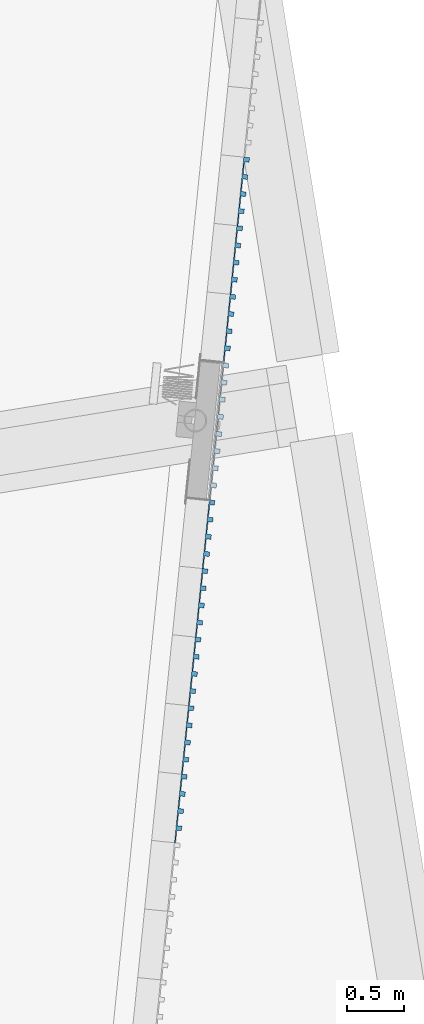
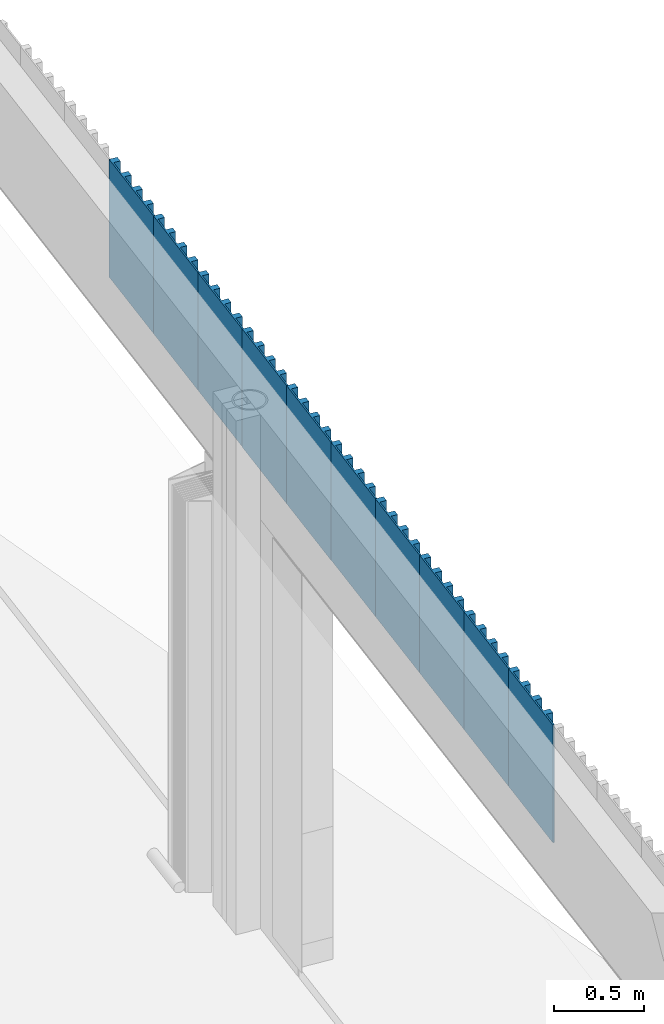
# One storey, part 16 of 23: 10 plates, 1 element without a shape of its own.
"""IFC2X3 building model written with IfcOpenShell, lengths in millimetres."""

from ifc_helpers import new_model, entity, si_unit, converted_unit, derived_unit, direction, frame, origin, origin_with_axes, place, context, subcontext, project, spatial, faceted_brep, material, type_object, element, aggregate, save


model = new_model("IFC2X3")

# Units and contexts
plan_context = context("Plan", 3, precision=1e-05, world=origin_with_axes())
model_context = context("Model", 3, precision=0.01, world=origin(), true_north=direction((6.12323399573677e-17, 1.0)))
body_context = subcontext(model_context, "Body", "Model", "MODEL_VIEW")
ifc_project = project(units=[converted_unit("PLANEANGLEUNIT", "DEGREE", entity("IfcPositiveLengthMeasure", 0.0174532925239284), si_unit("PLANEANGLEUNIT", "RADIAN"), dimensions=[0, 0, 0, 0, 0, 0, 0]), si_unit("AREAUNIT", "SQUARE_METRE"), si_unit("LENGTHUNIT", "METRE", prefix="MILLI"), si_unit("MASSUNIT", "GRAM", prefix="KILO"), si_unit("POWERUNIT", "WATT"), si_unit("PRESSUREUNIT", "PASCAL", prefix="KILO"), si_unit("FORCEUNIT", "NEWTON", prefix="KILO"), si_unit("ELECTRICVOLTAGEUNIT", "VOLT"), si_unit("ELECTRICCURRENTUNIT", "AMPERE"), si_unit("THERMODYNAMICTEMPERATUREUNIT", "DEGREE_CELSIUS"), si_unit("TIMEUNIT", "SECOND"), si_unit("VOLUMEUNIT", "CUBIC_METRE"), derived_unit("LINEARVELOCITYUNIT", [(si_unit("LENGTHUNIT", "METRE"), 1), (si_unit("TIMEUNIT", "SECOND"), -1)]), derived_unit("VOLUMETRICFLOWRATEUNIT", [(si_unit("VOLUMEUNIT", "CUBIC_METRE"), 1), (si_unit("TIMEUNIT", "SECOND"), -1)]), derived_unit("THERMALTRANSMITTANCEUNIT", [(si_unit("POWERUNIT", "WATT"), 1), (si_unit("THERMODYNAMICTEMPERATUREUNIT", "KELVIN"), -1), (si_unit("AREAUNIT", "SQUARE_METRE"), -1)]), derived_unit("SOUNDPRESSUREUNIT", [(si_unit("PRESSUREUNIT", "PASCAL"), 1)])], contexts=[model_context, plan_context])

# Site, building, storey
site_placement = place(None, frame((-0.00071070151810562, 0.00438415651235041, 0.0), z_axis=(0.0, 0.0, 1.0), x_axis=(-0.160236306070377, 0.987078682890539, 0.0)))
site = spatial("IfcSite", under=ifc_project, at=site_placement, Name="Default", CompositionType="ELEMENT")
building_placement = place(site_placement, origin_with_axes())
building = spatial("IfcBuilding", under=site, at=building_placement, Name="TOO", CompositionType="ELEMENT")
storey_placement = place(building_placement, frame((0.0, 0.0, 58999.9999999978), z_axis=(0.0, 0.0, 1.0), x_axis=(1.0, 0.0, 0.0)))
storey = spatial("IfcBuildingStorey", under=building, at=storey_placement, Name="Nivå F", CompositionType="ELEMENT", Elevation=58999.9999999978)

# Curtain wall, plates
curtain_wall_type = type_object("IfcCurtainWallType", Name="Curtain Wall:Curtain Wall Standard (Bruk kun denne)", PredefinedType="NOTDEFINED")
curtain_wall_placement = place(storey_placement, frame((0.0, 0.0, -58999.9999999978), z_axis=(0.0, 0.0, 1.0), x_axis=(1.0, 0.0, 0.0)))
curtain_wall = element("IfcCurtainWall", 1, at=curtain_wall_placement, inside=storey, type_object=curtain_wall_type, Name="Curtain Wall:Curtain Wall Standard (Bruk kun denne)", ObjectType="Curtain Wall:Curtain Wall Standard (Bruk kun denne)")
ifc_material = material(Name="A200 - Treverk - Eik")
plate_type_1 = type_object("IfcPlateType", Name="A246 - T01 Trespiler-panel 600:A246-T01 Trespiler-panel 600", PredefinedType="CURTAIN_PANEL", material=ifc_material)
plate_1_placement = place(curtain_wall_placement, frame((776568.379226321, -508229.25527172, 61702.4999999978), z_axis=(0.0, 0.0, 1.0), x_axis=(0.965925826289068, -0.258819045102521, 0.0)))
plate_1 = element("IfcPlate", 2, at=plate_1_placement, type_object=plate_type_1, Name="A246 - T01 Trespiler-panel 600:A246-T01 Trespiler-panel 600", ObjectType="A246 - T01 Trespiler-panel 600:A246-T01 Trespiler-panel 600", context=body_context, shape_type="Brep", body=[
    faceted_brep([(-150.0, -49.999999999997, 797.499999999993), (-150.0, -10.000000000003, 797.499999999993), (-150.0, -10.000000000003, 0.0), (-150.0, -49.999999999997, 0.0), (-190.0, -10.000000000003, 797.499999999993), (-190.0, -10.000000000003, 0.0), (-190.0, -49.999999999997, 797.499999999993), (-190.0, -49.999999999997, 0.0)], [[[0, 1, 2, 3]], [[1, 4, 5, 2]], [[4, 6, 7, 5]], [[6, 0, 3, 7]], [[3, 2, 5, 7]], [[6, 4, 1, 0]]], orient=[[False], [False], [False], [False], [False], [False]]),
    faceted_brep([(-3.5527136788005e-15, -49.999999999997, 797.499999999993), (-3.5527136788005e-15, -10.000000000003, 797.499999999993), (-3.5527136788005e-15, -10.000000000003, 0.0), (-3.5527136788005e-15, -49.999999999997, 0.0), (-40.0, -10.000000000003, 797.499999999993), (-40.0, -10.000000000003, 0.0), (-40.0, -49.999999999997, 797.499999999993), (-40.0, -49.999999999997, 0.0)], [[[0, 1, 2, 3]], [[1, 4, 5, 2]], [[4, 6, 7, 5]], [[6, 0, 3, 7]], [[3, 2, 5, 7]], [[6, 4, 1, 0]]], orient=[[False], [False], [False], [False], [False], [False]]),
    faceted_brep([(150.0, -49.999999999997, 797.499999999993), (150.0, -10.000000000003, 797.499999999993), (150.0, -10.000000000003, 0.0), (150.0, -49.999999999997, 0.0), (110.0, -10.000000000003, 797.499999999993), (110.0, -10.000000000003, 0.0), (110.0, -49.999999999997, 797.499999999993), (110.0, -49.999999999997, 0.0)], [[[0, 1, 2, 3]], [[1, 4, 5, 2]], [[4, 6, 7, 5]], [[6, 0, 3, 7]], [[3, 2, 5, 7]], [[6, 4, 1, 0]]], orient=[[False], [False], [False], [False], [False], [False]]),
    faceted_brep([(300.0, -49.999999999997, 797.499999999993), (300.0, -10.000000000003, 797.499999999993), (300.0, -10.000000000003, 0.0), (300.0, -49.999999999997, 0.0), (260.0, -10.000000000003, 797.499999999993), (260.0, -10.000000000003, 0.0), (260.0, -49.999999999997, 797.499999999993), (260.0, -49.999999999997, 0.0)], [[[0, 1, 2, 3]], [[1, 4, 5, 2]], [[4, 6, 7, 5]], [[6, 0, 3, 7]], [[3, 2, 5, 7]], [[6, 4, 1, 0]]], orient=[[False], [False], [False], [False], [False], [False]]),
    faceted_brep([(300.0, -10.0, 797.499999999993), (300.0, 0.0, 797.499999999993), (300.0, 0.0, 0.0), (300.0, -10.0, 0.0), (-300.0, 0.0, 797.499999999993), (-300.0, 0.0, 0.0), (-300.0, -10.0, 797.499999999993), (-300.0, -10.0, 0.0)], [[[0, 1, 2, 3]], [[1, 4, 5, 2]], [[4, 6, 7, 5]], [[6, 0, 3, 7]], [[3, 2, 5, 7]], [[6, 4, 1, 0]]], orient=[[False], [False], [False], [False], [False], [False]]),
])
plate_2_placement = place(curtain_wall_placement, frame((777147.934722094, -508384.546698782, 61702.4999999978), z_axis=(0.0, 0.0, 1.0), x_axis=(0.965925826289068, -0.258819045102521, 0.0)))
plate_2 = element("IfcPlate", 3, at=plate_2_placement, type_object=plate_type_1, Name="A246 - T01 Trespiler-panel 600:A246-T01 Trespiler-panel 600", ObjectType="A246 - T01 Trespiler-panel 600:A246-T01 Trespiler-panel 600", context=body_context, shape_type="Brep", body=[
    faceted_brep([(-150.0, -49.999999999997, 797.499999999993), (-150.0, -10.000000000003, 797.499999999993), (-150.0, -10.000000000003, 0.0), (-150.0, -49.999999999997, 0.0), (-190.0, -10.000000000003, 797.499999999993), (-190.0, -10.000000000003, 0.0), (-190.0, -49.999999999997, 797.499999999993), (-190.0, -49.999999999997, 0.0)], [[[0, 1, 2, 3]], [[1, 4, 5, 2]], [[4, 6, 7, 5]], [[6, 0, 3, 7]], [[3, 2, 5, 7]], [[6, 4, 1, 0]]], orient=[[False], [False], [False], [False], [False], [False]]),
    faceted_brep([(-3.5527136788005e-15, -49.999999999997, 797.499999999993), (-3.5527136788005e-15, -10.000000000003, 797.499999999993), (-3.5527136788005e-15, -10.000000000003, 0.0), (-3.5527136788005e-15, -49.999999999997, 0.0), (-40.0, -10.000000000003, 797.499999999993), (-40.0, -10.000000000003, 0.0), (-40.0, -49.999999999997, 797.499999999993), (-40.0, -49.999999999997, 0.0)], [[[0, 1, 2, 3]], [[1, 4, 5, 2]], [[4, 6, 7, 5]], [[6, 0, 3, 7]], [[3, 2, 5, 7]], [[6, 4, 1, 0]]], orient=[[False], [False], [False], [False], [False], [False]]),
    faceted_brep([(150.0, -49.999999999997, 797.499999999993), (150.0, -10.000000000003, 797.499999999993), (150.0, -10.000000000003, 0.0), (150.0, -49.999999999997, 0.0), (110.0, -10.000000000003, 797.499999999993), (110.0, -10.000000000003, 0.0), (110.0, -49.999999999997, 797.499999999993), (110.0, -49.999999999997, 0.0)], [[[0, 1, 2, 3]], [[1, 4, 5, 2]], [[4, 6, 7, 5]], [[6, 0, 3, 7]], [[3, 2, 5, 7]], [[6, 4, 1, 0]]], orient=[[False], [False], [False], [False], [False], [False]]),
    faceted_brep([(300.0, -49.999999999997, 797.499999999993), (300.0, -10.000000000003, 797.499999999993), (300.0, -10.000000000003, 0.0), (300.0, -49.999999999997, 0.0), (260.0, -10.000000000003, 797.499999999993), (260.0, -10.000000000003, 0.0), (260.0, -49.999999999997, 797.499999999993), (260.0, -49.999999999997, 0.0)], [[[0, 1, 2, 3]], [[1, 4, 5, 2]], [[4, 6, 7, 5]], [[6, 0, 3, 7]], [[3, 2, 5, 7]], [[6, 4, 1, 0]]], orient=[[False], [False], [False], [False], [False], [False]]),
    faceted_brep([(300.0, -10.0, 797.499999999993), (300.0, 0.0, 797.499999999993), (300.0, 0.0, 0.0), (300.0, -10.0, 0.0), (-300.0, 0.0, 797.499999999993), (-300.0, 0.0, 0.0), (-300.0, -10.0, 797.499999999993), (-300.0, -10.0, 0.0)], [[[0, 1, 2, 3]], [[1, 4, 5, 2]], [[4, 6, 7, 5]], [[6, 0, 3, 7]], [[3, 2, 5, 7]], [[6, 4, 1, 0]]], orient=[[False], [False], [False], [False], [False], [False]]),
])
plate_3_placement = place(curtain_wall_placement, frame((777727.490217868, -508539.838125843, 61702.4999999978), z_axis=(0.0, 0.0, 1.0), x_axis=(0.965925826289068, -0.258819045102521, 0.0)))
plate_3 = element("IfcPlate", 4, at=plate_3_placement, type_object=plate_type_1, Name="A246 - T01 Trespiler-panel 600:A246-T01 Trespiler-panel 600", ObjectType="A246 - T01 Trespiler-panel 600:A246-T01 Trespiler-panel 600", context=body_context, shape_type="Brep", body=[
    faceted_brep([(-150.0, -49.999999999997, 797.499999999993), (-150.0, -10.000000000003, 797.499999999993), (-150.0, -10.000000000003, 0.0), (-150.0, -49.999999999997, 0.0), (-190.0, -10.000000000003, 797.499999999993), (-190.0, -10.000000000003, 0.0), (-190.0, -49.999999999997, 797.499999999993), (-190.0, -49.999999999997, 0.0)], [[[0, 1, 2, 3]], [[1, 4, 5, 2]], [[4, 6, 7, 5]], [[6, 0, 3, 7]], [[3, 2, 5, 7]], [[6, 4, 1, 0]]], orient=[[False], [False], [False], [False], [False], [False]]),
    faceted_brep([(-3.5527136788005e-15, -49.999999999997, 797.499999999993), (-3.5527136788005e-15, -10.000000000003, 797.499999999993), (-3.5527136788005e-15, -10.000000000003, 0.0), (-3.5527136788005e-15, -49.999999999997, 0.0), (-40.0, -10.000000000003, 797.499999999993), (-40.0, -10.000000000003, 0.0), (-40.0, -49.999999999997, 797.499999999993), (-40.0, -49.999999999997, 0.0)], [[[0, 1, 2, 3]], [[1, 4, 5, 2]], [[4, 6, 7, 5]], [[6, 0, 3, 7]], [[3, 2, 5, 7]], [[6, 4, 1, 0]]], orient=[[False], [False], [False], [False], [False], [False]]),
    faceted_brep([(150.0, -49.999999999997, 797.499999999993), (150.0, -10.000000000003, 797.499999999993), (150.0, -10.000000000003, 0.0), (150.0, -49.999999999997, 0.0), (110.0, -10.000000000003, 797.499999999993), (110.0, -10.000000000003, 0.0), (110.0, -49.999999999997, 797.499999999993), (110.0, -49.999999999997, 0.0)], [[[0, 1, 2, 3]], [[1, 4, 5, 2]], [[4, 6, 7, 5]], [[6, 0, 3, 7]], [[3, 2, 5, 7]], [[6, 4, 1, 0]]], orient=[[False], [False], [False], [False], [False], [False]]),
    faceted_brep([(300.0, -49.999999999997, 797.499999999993), (300.0, -10.000000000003, 797.499999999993), (300.0, -10.000000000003, 0.0), (300.0, -49.999999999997, 0.0), (260.0, -10.000000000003, 797.499999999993), (260.0, -10.000000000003, 0.0), (260.0, -49.999999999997, 797.499999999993), (260.0, -49.999999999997, 0.0)], [[[0, 1, 2, 3]], [[1, 4, 5, 2]], [[4, 6, 7, 5]], [[6, 0, 3, 7]], [[3, 2, 5, 7]], [[6, 4, 1, 0]]], orient=[[False], [False], [False], [False], [False], [False]]),
    faceted_brep([(300.0, -10.0, 797.499999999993), (300.0, 0.0, 797.499999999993), (300.0, 0.0, 0.0), (300.0, -10.0, 0.0), (-300.0, 0.0, 797.499999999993), (-300.0, 0.0, 0.0), (-300.0, -10.0, 797.499999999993), (-300.0, -10.0, 0.0)], [[[0, 1, 2, 3]], [[1, 4, 5, 2]], [[4, 6, 7, 5]], [[6, 0, 3, 7]], [[3, 2, 5, 7]], [[6, 4, 1, 0]]], orient=[[False], [False], [False], [False], [False], [False]]),
])
plate_4_placement = place(curtain_wall_placement, frame((778307.045713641, -508695.129552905, 61702.4999999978), z_axis=(0.0, 0.0, 1.0), x_axis=(0.965925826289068, -0.258819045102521, 0.0)))
plate_4 = element("IfcPlate", 5, at=plate_4_placement, type_object=plate_type_1, Name="A246 - T01 Trespiler-panel 600:A246-T01 Trespiler-panel 600", ObjectType="A246 - T01 Trespiler-panel 600:A246-T01 Trespiler-panel 600", context=body_context, shape_type="Brep", body=[
    faceted_brep([(-150.0, -49.999999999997, 797.499999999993), (-150.0, -10.000000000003, 797.499999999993), (-150.0, -10.000000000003, 0.0), (-150.0, -49.999999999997, 0.0), (-190.0, -10.000000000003, 797.499999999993), (-190.0, -10.000000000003, 0.0), (-190.0, -49.999999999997, 797.499999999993), (-190.0, -49.999999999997, 0.0)], [[[0, 1, 2, 3]], [[1, 4, 5, 2]], [[4, 6, 7, 5]], [[6, 0, 3, 7]], [[3, 2, 5, 7]], [[6, 4, 1, 0]]], orient=[[False], [False], [False], [False], [False], [False]]),
    faceted_brep([(-3.5527136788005e-15, -49.999999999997, 797.499999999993), (-3.5527136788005e-15, -10.000000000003, 797.499999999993), (-3.5527136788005e-15, -10.000000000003, 0.0), (-3.5527136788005e-15, -49.999999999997, 0.0), (-40.0, -10.000000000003, 797.499999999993), (-40.0, -10.000000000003, 0.0), (-40.0, -49.999999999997, 797.499999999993), (-40.0, -49.999999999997, 0.0)], [[[0, 1, 2, 3]], [[1, 4, 5, 2]], [[4, 6, 7, 5]], [[6, 0, 3, 7]], [[3, 2, 5, 7]], [[6, 4, 1, 0]]], orient=[[False], [False], [False], [False], [False], [False]]),
    faceted_brep([(150.0, -49.999999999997, 797.499999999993), (150.0, -10.000000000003, 797.499999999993), (150.0, -10.000000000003, 0.0), (150.0, -49.999999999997, 0.0), (110.0, -10.000000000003, 797.499999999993), (110.0, -10.000000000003, 0.0), (110.0, -49.999999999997, 797.499999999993), (110.0, -49.999999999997, 0.0)], [[[0, 1, 2, 3]], [[1, 4, 5, 2]], [[4, 6, 7, 5]], [[6, 0, 3, 7]], [[3, 2, 5, 7]], [[6, 4, 1, 0]]], orient=[[False], [False], [False], [False], [False], [False]]),
    faceted_brep([(300.0, -49.999999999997, 797.499999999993), (300.0, -10.000000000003, 797.499999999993), (300.0, -10.000000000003, 0.0), (300.0, -49.999999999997, 0.0), (260.0, -10.000000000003, 797.499999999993), (260.0, -10.000000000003, 0.0), (260.0, -49.999999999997, 797.499999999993), (260.0, -49.999999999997, 0.0)], [[[0, 1, 2, 3]], [[1, 4, 5, 2]], [[4, 6, 7, 5]], [[6, 0, 3, 7]], [[3, 2, 5, 7]], [[6, 4, 1, 0]]], orient=[[False], [False], [False], [False], [False], [False]]),
    faceted_brep([(300.0, -10.0, 797.499999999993), (300.0, 0.0, 797.499999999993), (300.0, 0.0, 0.0), (300.0, -10.0, 0.0), (-300.0, 0.0, 797.499999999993), (-300.0, 0.0, 0.0), (-300.0, -10.0, 797.499999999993), (-300.0, -10.0, 0.0)], [[[0, 1, 2, 3]], [[1, 4, 5, 2]], [[4, 6, 7, 5]], [[6, 0, 3, 7]], [[3, 2, 5, 7]], [[6, 4, 1, 0]]], orient=[[False], [False], [False], [False], [False], [False]]),
])
plate_5_placement = place(curtain_wall_placement, frame((778886.601209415, -508850.420979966, 61702.4999999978), z_axis=(0.0, 0.0, 1.0), x_axis=(0.965925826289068, -0.258819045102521, 0.0)))
plate_5 = element("IfcPlate", 6, at=plate_5_placement, type_object=plate_type_1, Name="A246 - T01 Trespiler-panel 600:A246-T01 Trespiler-panel 600", ObjectType="A246 - T01 Trespiler-panel 600:A246-T01 Trespiler-panel 600", context=body_context, shape_type="Brep", body=[
    faceted_brep([(-150.0, -49.999999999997, 797.499999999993), (-150.0, -10.000000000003, 797.499999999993), (-150.0, -10.000000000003, 0.0), (-150.0, -49.999999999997, 0.0), (-190.0, -10.000000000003, 797.499999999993), (-190.0, -10.000000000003, 0.0), (-190.0, -49.999999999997, 797.499999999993), (-190.0, -49.999999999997, 0.0)], [[[0, 1, 2, 3]], [[1, 4, 5, 2]], [[4, 6, 7, 5]], [[6, 0, 3, 7]], [[3, 2, 5, 7]], [[6, 4, 1, 0]]], orient=[[False], [False], [False], [False], [False], [False]]),
    faceted_brep([(-3.5527136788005e-15, -49.999999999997, 797.499999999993), (-3.5527136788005e-15, -10.000000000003, 797.499999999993), (-3.5527136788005e-15, -10.000000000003, 0.0), (-3.5527136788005e-15, -49.999999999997, 0.0), (-40.0, -10.000000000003, 797.499999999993), (-40.0, -10.000000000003, 0.0), (-40.0, -49.999999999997, 797.499999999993), (-40.0, -49.999999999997, 0.0)], [[[0, 1, 2, 3]], [[1, 4, 5, 2]], [[4, 6, 7, 5]], [[6, 0, 3, 7]], [[3, 2, 5, 7]], [[6, 4, 1, 0]]], orient=[[False], [False], [False], [False], [False], [False]]),
    faceted_brep([(150.0, -49.999999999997, 797.499999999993), (150.0, -10.000000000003, 797.499999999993), (150.0, -10.000000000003, 0.0), (150.0, -49.999999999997, 0.0), (110.0, -10.000000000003, 797.499999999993), (110.0, -10.000000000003, 0.0), (110.0, -49.999999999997, 797.499999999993), (110.0, -49.999999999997, 0.0)], [[[0, 1, 2, 3]], [[1, 4, 5, 2]], [[4, 6, 7, 5]], [[6, 0, 3, 7]], [[3, 2, 5, 7]], [[6, 4, 1, 0]]], orient=[[False], [False], [False], [False], [False], [False]]),
    faceted_brep([(300.0, -49.999999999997, 797.499999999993), (300.0, -10.000000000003, 797.499999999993), (300.0, -10.000000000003, 0.0), (300.0, -49.999999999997, 0.0), (260.0, -10.000000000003, 797.499999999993), (260.0, -10.000000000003, 0.0), (260.0, -49.999999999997, 797.499999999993), (260.0, -49.999999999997, 0.0)], [[[0, 1, 2, 3]], [[1, 4, 5, 2]], [[4, 6, 7, 5]], [[6, 0, 3, 7]], [[3, 2, 5, 7]], [[6, 4, 1, 0]]], orient=[[False], [False], [False], [False], [False], [False]]),
    faceted_brep([(300.0, -10.0, 797.499999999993), (300.0, 0.0, 797.499999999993), (300.0, 0.0, 0.0), (300.0, -10.0, 0.0), (-300.0, 0.0, 797.499999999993), (-300.0, 0.0, 0.0), (-300.0, -10.0, 797.499999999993), (-300.0, -10.0, 0.0)], [[[0, 1, 2, 3]], [[1, 4, 5, 2]], [[4, 6, 7, 5]], [[6, 0, 3, 7]], [[3, 2, 5, 7]], [[6, 4, 1, 0]]], orient=[[False], [False], [False], [False], [False], [False]]),
])
plate_6_placement = place(curtain_wall_placement, frame((780625.267696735, -509316.295261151, 61702.4999999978), z_axis=(0.0, 0.0, 1.0), x_axis=(0.965925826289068, -0.258819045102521, 0.0)))
plate_6 = element("IfcPlate", 7, at=plate_6_placement, type_object=plate_type_1, Name="A246 - T01 Trespiler-panel 600:A246-T01 Trespiler-panel 600", ObjectType="A246 - T01 Trespiler-panel 600:A246-T01 Trespiler-panel 600", context=body_context, shape_type="Brep", body=[
    faceted_brep([(-150.0, -49.999999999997, 797.499999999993), (-150.0, -10.000000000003, 797.499999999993), (-150.0, -10.000000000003, 0.0), (-150.0, -49.999999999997, 0.0), (-190.0, -10.000000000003, 797.499999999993), (-190.0, -10.000000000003, 0.0), (-190.0, -49.999999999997, 797.499999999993), (-190.0, -49.999999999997, 0.0)], [[[0, 1, 2, 3]], [[1, 4, 5, 2]], [[4, 6, 7, 5]], [[6, 0, 3, 7]], [[3, 2, 5, 7]], [[6, 4, 1, 0]]], orient=[[False], [False], [False], [False], [False], [False]]),
    faceted_brep([(-3.5527136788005e-15, -49.999999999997, 797.499999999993), (-3.5527136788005e-15, -10.000000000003, 797.499999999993), (-3.5527136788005e-15, -10.000000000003, 0.0), (-3.5527136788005e-15, -49.999999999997, 0.0), (-40.0, -10.000000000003, 797.499999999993), (-40.0, -10.000000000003, 0.0), (-40.0, -49.999999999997, 797.499999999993), (-40.0, -49.999999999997, 0.0)], [[[0, 1, 2, 3]], [[1, 4, 5, 2]], [[4, 6, 7, 5]], [[6, 0, 3, 7]], [[3, 2, 5, 7]], [[6, 4, 1, 0]]], orient=[[False], [False], [False], [False], [False], [False]]),
    faceted_brep([(150.0, -49.999999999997, 797.499999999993), (150.0, -10.000000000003, 797.499999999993), (150.0, -10.000000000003, 0.0), (150.0, -49.999999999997, 0.0), (110.0, -10.000000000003, 797.499999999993), (110.0, -10.000000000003, 0.0), (110.0, -49.999999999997, 797.499999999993), (110.0, -49.999999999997, 0.0)], [[[0, 1, 2, 3]], [[1, 4, 5, 2]], [[4, 6, 7, 5]], [[6, 0, 3, 7]], [[3, 2, 5, 7]], [[6, 4, 1, 0]]], orient=[[False], [False], [False], [False], [False], [False]]),
    faceted_brep([(300.0, -49.999999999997, 797.499999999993), (300.0, -10.000000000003, 797.499999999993), (300.0, -10.000000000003, 0.0), (300.0, -49.999999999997, 0.0), (260.0, -10.000000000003, 797.499999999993), (260.0, -10.000000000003, 0.0), (260.0, -49.999999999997, 797.499999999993), (260.0, -49.999999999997, 0.0)], [[[0, 1, 2, 3]], [[1, 4, 5, 2]], [[4, 6, 7, 5]], [[6, 0, 3, 7]], [[3, 2, 5, 7]], [[6, 4, 1, 0]]], orient=[[False], [False], [False], [False], [False], [False]]),
    faceted_brep([(300.0, -10.0, 797.499999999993), (300.0, 0.0, 797.499999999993), (300.0, 0.0, 0.0), (300.0, -10.0, 0.0), (-300.0, 0.0, 797.499999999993), (-300.0, 0.0, 0.0), (-300.0, -10.0, 797.499999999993), (-300.0, -10.0, 0.0)], [[[0, 1, 2, 3]], [[1, 4, 5, 2]], [[4, 6, 7, 5]], [[6, 0, 3, 7]], [[3, 2, 5, 7]], [[6, 4, 1, 0]]], orient=[[False], [False], [False], [False], [False], [False]]),
])
plate_7_placement = place(curtain_wall_placement, frame((781204.823192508, -509471.586688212, 61702.4999999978), z_axis=(0.0, 0.0, 1.0), x_axis=(0.965925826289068, -0.258819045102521, 0.0)))
plate_7 = element("IfcPlate", 8, at=plate_7_placement, type_object=plate_type_1, Name="A246 - T01 Trespiler-panel 600:A246-T01 Trespiler-panel 600", ObjectType="A246 - T01 Trespiler-panel 600:A246-T01 Trespiler-panel 600", context=body_context, shape_type="Brep", body=[
    faceted_brep([(-150.0, -49.999999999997, 797.499999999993), (-150.0, -10.000000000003, 797.499999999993), (-150.0, -10.000000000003, 0.0), (-150.0, -49.999999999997, 0.0), (-190.0, -10.000000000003, 797.499999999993), (-190.0, -10.000000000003, 0.0), (-190.0, -49.999999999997, 797.499999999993), (-190.0, -49.999999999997, 0.0)], [[[0, 1, 2, 3]], [[1, 4, 5, 2]], [[4, 6, 7, 5]], [[6, 0, 3, 7]], [[3, 2, 5, 7]], [[6, 4, 1, 0]]], orient=[[False], [False], [False], [False], [False], [False]]),
    faceted_brep([(-3.5527136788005e-15, -49.999999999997, 797.499999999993), (-3.5527136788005e-15, -10.000000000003, 797.499999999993), (-3.5527136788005e-15, -10.000000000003, 0.0), (-3.5527136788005e-15, -49.999999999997, 0.0), (-40.0, -10.000000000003, 797.499999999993), (-40.0, -10.000000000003, 0.0), (-40.0, -49.999999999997, 797.499999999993), (-40.0, -49.999999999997, 0.0)], [[[0, 1, 2, 3]], [[1, 4, 5, 2]], [[4, 6, 7, 5]], [[6, 0, 3, 7]], [[3, 2, 5, 7]], [[6, 4, 1, 0]]], orient=[[False], [False], [False], [False], [False], [False]]),
    faceted_brep([(150.0, -49.999999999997, 797.499999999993), (150.0, -10.000000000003, 797.499999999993), (150.0, -10.000000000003, 0.0), (150.0, -49.999999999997, 0.0), (110.0, -10.000000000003, 797.499999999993), (110.0, -10.000000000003, 0.0), (110.0, -49.999999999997, 797.499999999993), (110.0, -49.999999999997, 0.0)], [[[0, 1, 2, 3]], [[1, 4, 5, 2]], [[4, 6, 7, 5]], [[6, 0, 3, 7]], [[3, 2, 5, 7]], [[6, 4, 1, 0]]], orient=[[False], [False], [False], [False], [False], [False]]),
    faceted_brep([(300.0, -49.999999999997, 797.499999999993), (300.0, -10.000000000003, 797.499999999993), (300.0, -10.000000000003, 0.0), (300.0, -49.999999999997, 0.0), (260.0, -10.000000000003, 797.499999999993), (260.0, -10.000000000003, 0.0), (260.0, -49.999999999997, 797.499999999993), (260.0, -49.999999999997, 0.0)], [[[0, 1, 2, 3]], [[1, 4, 5, 2]], [[4, 6, 7, 5]], [[6, 0, 3, 7]], [[3, 2, 5, 7]], [[6, 4, 1, 0]]], orient=[[False], [False], [False], [False], [False], [False]]),
    faceted_brep([(300.0, -10.0, 797.499999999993), (300.0, 0.0, 797.499999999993), (300.0, 0.0, 0.0), (300.0, -10.0, 0.0), (-300.0, 0.0, 797.499999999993), (-300.0, 0.0, 0.0), (-300.0, -10.0, 797.499999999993), (-300.0, -10.0, 0.0)], [[[0, 1, 2, 3]], [[1, 4, 5, 2]], [[4, 6, 7, 5]], [[6, 0, 3, 7]], [[3, 2, 5, 7]], [[6, 4, 1, 0]]], orient=[[False], [False], [False], [False], [False], [False]]),
])
plate_8_placement = place(curtain_wall_placement, frame((781784.378688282, -509626.878115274, 61702.4999999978), z_axis=(0.0, 0.0, 1.0), x_axis=(0.965925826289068, -0.258819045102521, 0.0)))
plate_8 = element("IfcPlate", 9, at=plate_8_placement, type_object=plate_type_1, Name="A246 - T01 Trespiler-panel 600:A246-T01 Trespiler-panel 600", ObjectType="A246 - T01 Trespiler-panel 600:A246-T01 Trespiler-panel 600", context=body_context, shape_type="Brep", body=[
    faceted_brep([(-150.0, -49.999999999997, 797.499999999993), (-150.0, -10.000000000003, 797.499999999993), (-150.0, -10.000000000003, 0.0), (-150.0, -49.999999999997, 0.0), (-190.0, -10.000000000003, 797.499999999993), (-190.0, -10.000000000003, 0.0), (-190.0, -49.999999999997, 797.499999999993), (-190.0, -49.999999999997, 0.0)], [[[0, 1, 2, 3]], [[1, 4, 5, 2]], [[4, 6, 7, 5]], [[6, 0, 3, 7]], [[3, 2, 5, 7]], [[6, 4, 1, 0]]], orient=[[False], [False], [False], [False], [False], [False]]),
    faceted_brep([(-3.5527136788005e-15, -49.999999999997, 797.499999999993), (-3.5527136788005e-15, -10.000000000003, 797.499999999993), (-3.5527136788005e-15, -10.000000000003, 0.0), (-3.5527136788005e-15, -49.999999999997, 0.0), (-40.0, -10.000000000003, 797.499999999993), (-40.0, -10.000000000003, 0.0), (-40.0, -49.999999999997, 797.499999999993), (-40.0, -49.999999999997, 0.0)], [[[0, 1, 2, 3]], [[1, 4, 5, 2]], [[4, 6, 7, 5]], [[6, 0, 3, 7]], [[3, 2, 5, 7]], [[6, 4, 1, 0]]], orient=[[False], [False], [False], [False], [False], [False]]),
    faceted_brep([(150.0, -49.999999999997, 797.499999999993), (150.0, -10.000000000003, 797.499999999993), (150.0, -10.000000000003, 0.0), (150.0, -49.999999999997, 0.0), (110.0, -10.000000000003, 797.499999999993), (110.0, -10.000000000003, 0.0), (110.0, -49.999999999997, 797.499999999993), (110.0, -49.999999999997, 0.0)], [[[0, 1, 2, 3]], [[1, 4, 5, 2]], [[4, 6, 7, 5]], [[6, 0, 3, 7]], [[3, 2, 5, 7]], [[6, 4, 1, 0]]], orient=[[False], [False], [False], [False], [False], [False]]),
    faceted_brep([(300.0, -49.999999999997, 797.499999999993), (300.0, -10.000000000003, 797.499999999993), (300.0, -10.000000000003, 0.0), (300.0, -49.999999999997, 0.0), (260.0, -10.000000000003, 797.499999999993), (260.0, -10.000000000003, 0.0), (260.0, -49.999999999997, 797.499999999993), (260.0, -49.999999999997, 0.0)], [[[0, 1, 2, 3]], [[1, 4, 5, 2]], [[4, 6, 7, 5]], [[6, 0, 3, 7]], [[3, 2, 5, 7]], [[6, 4, 1, 0]]], orient=[[False], [False], [False], [False], [False], [False]]),
    faceted_brep([(300.0, -10.0, 797.499999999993), (300.0, 0.0, 797.499999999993), (300.0, 0.0, 0.0), (300.0, -10.0, 0.0), (-300.0, 0.0, 797.499999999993), (-300.0, 0.0, 0.0), (-300.0, -10.0, 797.499999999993), (-300.0, -10.0, 0.0)], [[[0, 1, 2, 3]], [[1, 4, 5, 2]], [[4, 6, 7, 5]], [[6, 0, 3, 7]], [[3, 2, 5, 7]], [[6, 4, 1, 0]]], orient=[[False], [False], [False], [False], [False], [False]]),
])
plate_type_2 = type_object("IfcPlateType", Name="A246 - T01 Trespiler-panel 900:A246-T01 Trespiler-panel 900", PredefinedType="CURTAIN_PANEL", material=ifc_material)
plate_9_placement = place(curtain_wall_placement, frame((779466.156705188, -509005.712407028, 61699.9999999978), z_axis=(0.0, 0.0, 1.0), x_axis=(0.965925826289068, -0.258819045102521, 0.0)))
plate_9 = element("IfcPlate", 10, at=plate_9_placement, type_object=plate_type_2, Name="A246 - T01 Trespiler-panel 900:A246-T01 Trespiler-panel 900", ObjectType="A246 - T01 Trespiler-panel 900:A246-T01 Trespiler-panel 900", context=body_context, shape_type="Brep", body=[
    faceted_brep([(-300.0, -50.0000000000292, 800.000000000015), (-300.0, -9.99999999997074, 800.000000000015), (-300.0, -9.99999999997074, 0.0), (-300.0, -50.0000000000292, 0.0), (-340.0, -9.99999999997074, 800.000000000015), (-340.0, -9.99999999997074, 0.0), (-340.0, -50.0000000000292, 800.000000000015), (-340.0, -50.0000000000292, 0.0)], [[[0, 1, 2, 3]], [[1, 4, 5, 2]], [[4, 6, 7, 5]], [[6, 0, 3, 7]], [[3, 2, 5, 7]], [[6, 4, 1, 0]]], orient=[[False], [False], [False], [False], [False], [False]]),
    faceted_brep([(-150.0, -50.0000000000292, 800.000000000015), (-150.0, -9.99999999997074, 800.000000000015), (-150.0, -9.99999999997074, 0.0), (-150.0, -50.0000000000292, 0.0), (-190.0, -9.99999999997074, 800.000000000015), (-190.0, -9.99999999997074, 0.0), (-190.0, -50.0000000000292, 800.000000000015), (-190.0, -50.0000000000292, 0.0)], [[[0, 1, 2, 3]], [[1, 4, 5, 2]], [[4, 6, 7, 5]], [[6, 0, 3, 7]], [[3, 2, 5, 7]], [[6, 4, 1, 0]]], orient=[[False], [False], [False], [False], [False], [False]]),
    faceted_brep([(-3.5527136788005e-15, -50.0000000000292, 800.000000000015), (-3.5527136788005e-15, -9.99999999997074, 800.000000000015), (-3.5527136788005e-15, -9.99999999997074, 0.0), (-3.5527136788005e-15, -50.0000000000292, 0.0), (-40.0, -9.99999999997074, 800.000000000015), (-40.0, -9.99999999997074, 0.0), (-40.0, -50.0000000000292, 800.000000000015), (-40.0, -50.0000000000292, 0.0)], [[[0, 1, 2, 3]], [[1, 4, 5, 2]], [[4, 6, 7, 5]], [[6, 0, 3, 7]], [[3, 2, 5, 7]], [[6, 4, 1, 0]]], orient=[[False], [False], [False], [False], [False], [False]]),
    faceted_brep([(150.0, -50.0000000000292, 800.000000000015), (150.0, -9.99999999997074, 800.000000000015), (150.0, -9.99999999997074, 0.0), (150.0, -50.0000000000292, 0.0), (110.0, -9.99999999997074, 800.000000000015), (110.0, -9.99999999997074, 0.0), (110.0, -50.0000000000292, 800.000000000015), (110.0, -50.0000000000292, 0.0)], [[[0, 1, 2, 3]], [[1, 4, 5, 2]], [[4, 6, 7, 5]], [[6, 0, 3, 7]], [[3, 2, 5, 7]], [[6, 4, 1, 0]]], orient=[[False], [False], [False], [False], [False], [False]]),
    faceted_brep([(150.0, -50.0000000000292, 800.000000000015), (150.0, -9.99999999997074, 800.000000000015), (150.0, -9.99999999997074, 0.0), (150.0, -50.0000000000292, 0.0), (110.0, -9.99999999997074, 800.000000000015), (110.0, -9.99999999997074, 0.0), (110.0, -50.0000000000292, 800.000000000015), (110.0, -50.0000000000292, 0.0)], [[[0, 1, 2, 3]], [[1, 4, 5, 2]], [[4, 6, 7, 5]], [[6, 0, 3, 7]], [[3, 2, 5, 7]], [[6, 4, 1, 0]]], orient=[[False], [False], [False], [False], [False], [False]]),
    faceted_brep([(300.0, -50.0000000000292, 800.000000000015), (300.0, -9.99999999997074, 800.000000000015), (300.0, -9.99999999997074, 0.0), (300.0, -50.0000000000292, 0.0), (260.0, -9.99999999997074, 800.000000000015), (260.0, -9.99999999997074, 0.0), (260.0, -50.0000000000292, 800.000000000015), (260.0, -50.0000000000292, 0.0)], [[[0, 1, 2, 3]], [[1, 4, 5, 2]], [[4, 6, 7, 5]], [[6, 0, 3, 7]], [[3, 2, 5, 7]], [[6, 4, 1, 0]]], orient=[[False], [False], [False], [False], [False], [False]]),
    faceted_brep([(300.0, -10.0, 800.000000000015), (300.0, 0.0, 800.000000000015), (300.0, 0.0, 0.0), (300.0, -10.0, 0.0), (-300.0, 0.0, 800.000000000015), (-300.0, 0.0, 0.0), (-300.0, -10.0, 800.000000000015), (-300.0, -10.0, 0.0)], [[[0, 1, 2, 3]], [[1, 4, 5, 2]], [[4, 6, 7, 5]], [[6, 0, 3, 7]], [[3, 2, 5, 7]], [[6, 4, 1, 0]]], orient=[[False], [False], [False], [False], [False], [False]]),
])
plate_10_placement = place(curtain_wall_placement, frame((780045.712200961, -509161.003834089, 61699.9999999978), z_axis=(0.0, 0.0, 1.0), x_axis=(0.965925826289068, -0.258819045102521, 0.0)))
plate_10 = element("IfcPlate", 11, at=plate_10_placement, type_object=plate_type_2, Name="A246 - T01 Trespiler-panel 900:A246-T01 Trespiler-panel 900", ObjectType="A246 - T01 Trespiler-panel 900:A246-T01 Trespiler-panel 900", context=body_context, shape_type="Brep", body=[
    faceted_brep([(-300.0, -50.0000000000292, 800.000000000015), (-300.0, -9.99999999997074, 800.000000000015), (-300.0, -9.99999999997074, 0.0), (-300.0, -50.0000000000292, 0.0), (-340.0, -9.99999999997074, 800.000000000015), (-340.0, -9.99999999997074, 0.0), (-340.0, -50.0000000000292, 800.000000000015), (-340.0, -50.0000000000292, 0.0)], [[[0, 1, 2, 3]], [[1, 4, 5, 2]], [[4, 6, 7, 5]], [[6, 0, 3, 7]], [[3, 2, 5, 7]], [[6, 4, 1, 0]]], orient=[[False], [False], [False], [False], [False], [False]]),
    faceted_brep([(-150.0, -50.0000000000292, 800.000000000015), (-150.0, -9.99999999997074, 800.000000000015), (-150.0, -9.99999999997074, 0.0), (-150.0, -50.0000000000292, 0.0), (-190.0, -9.99999999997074, 800.000000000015), (-190.0, -9.99999999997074, 0.0), (-190.0, -50.0000000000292, 800.000000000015), (-190.0, -50.0000000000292, 0.0)], [[[0, 1, 2, 3]], [[1, 4, 5, 2]], [[4, 6, 7, 5]], [[6, 0, 3, 7]], [[3, 2, 5, 7]], [[6, 4, 1, 0]]], orient=[[False], [False], [False], [False], [False], [False]]),
    faceted_brep([(-3.5527136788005e-15, -50.0000000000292, 800.000000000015), (-3.5527136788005e-15, -9.99999999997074, 800.000000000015), (-3.5527136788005e-15, -9.99999999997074, 0.0), (-3.5527136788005e-15, -50.0000000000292, 0.0), (-40.0, -9.99999999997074, 800.000000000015), (-40.0, -9.99999999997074, 0.0), (-40.0, -50.0000000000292, 800.000000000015), (-40.0, -50.0000000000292, 0.0)], [[[0, 1, 2, 3]], [[1, 4, 5, 2]], [[4, 6, 7, 5]], [[6, 0, 3, 7]], [[3, 2, 5, 7]], [[6, 4, 1, 0]]], orient=[[False], [False], [False], [False], [False], [False]]),
    faceted_brep([(150.0, -50.0000000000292, 800.000000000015), (150.0, -9.99999999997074, 800.000000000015), (150.0, -9.99999999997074, 0.0), (150.0, -50.0000000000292, 0.0), (110.0, -9.99999999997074, 800.000000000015), (110.0, -9.99999999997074, 0.0), (110.0, -50.0000000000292, 800.000000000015), (110.0, -50.0000000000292, 0.0)], [[[0, 1, 2, 3]], [[1, 4, 5, 2]], [[4, 6, 7, 5]], [[6, 0, 3, 7]], [[3, 2, 5, 7]], [[6, 4, 1, 0]]], orient=[[False], [False], [False], [False], [False], [False]]),
    faceted_brep([(150.0, -50.0000000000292, 800.000000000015), (150.0, -9.99999999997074, 800.000000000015), (150.0, -9.99999999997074, 0.0), (150.0, -50.0000000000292, 0.0), (110.0, -9.99999999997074, 800.000000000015), (110.0, -9.99999999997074, 0.0), (110.0, -50.0000000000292, 800.000000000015), (110.0, -50.0000000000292, 0.0)], [[[0, 1, 2, 3]], [[1, 4, 5, 2]], [[4, 6, 7, 5]], [[6, 0, 3, 7]], [[3, 2, 5, 7]], [[6, 4, 1, 0]]], orient=[[False], [False], [False], [False], [False], [False]]),
    faceted_brep([(300.0, -50.0000000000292, 800.000000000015), (300.0, -9.99999999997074, 800.000000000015), (300.0, -9.99999999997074, 0.0), (300.0, -50.0000000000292, 0.0), (260.0, -9.99999999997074, 800.000000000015), (260.0, -9.99999999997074, 0.0), (260.0, -50.0000000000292, 800.000000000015), (260.0, -50.0000000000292, 0.0)], [[[0, 1, 2, 3]], [[1, 4, 5, 2]], [[4, 6, 7, 5]], [[6, 0, 3, 7]], [[3, 2, 5, 7]], [[6, 4, 1, 0]]], orient=[[False], [False], [False], [False], [False], [False]]),
    faceted_brep([(300.0, -10.0, 800.000000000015), (300.0, 0.0, 800.000000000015), (300.0, 0.0, 0.0), (300.0, -10.0, 0.0), (-300.0, 0.0, 800.000000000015), (-300.0, 0.0, 0.0), (-300.0, -10.0, 800.000000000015), (-300.0, -10.0, 0.0)], [[[0, 1, 2, 3]], [[1, 4, 5, 2]], [[4, 6, 7, 5]], [[6, 0, 3, 7]], [[3, 2, 5, 7]], [[6, 4, 1, 0]]], orient=[[False], [False], [False], [False], [False], [False]]),
])
aggregate(curtain_wall, [plate_1, plate_2, plate_3, plate_4, plate_5, plate_9, plate_10, plate_6, plate_7, plate_8])

save(model, "model.ifc")
